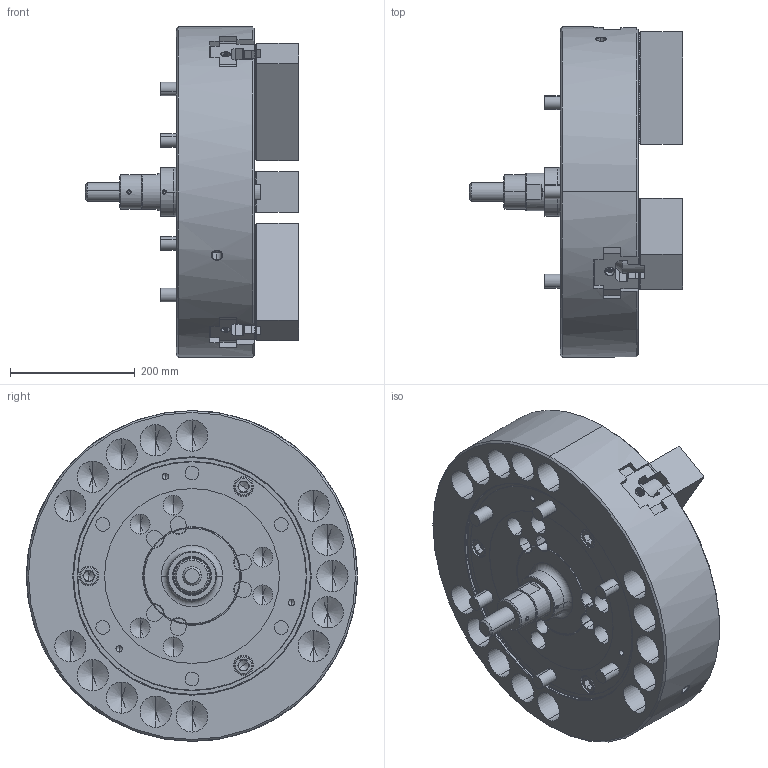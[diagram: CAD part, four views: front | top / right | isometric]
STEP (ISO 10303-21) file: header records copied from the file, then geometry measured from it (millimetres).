
FILE_DESCRIPTION (( 'STEP AP214' ), '1' );
FILE_NAME ('N-21_OC.STEP', '2020-03-08T23:54:18', ( '' ), ( '' ), 'SwSTEP 2.0', 'SolidWorks 2017', '' );
FILE_SCHEMA (( 'AUTOMOTIVE_DESIGN' ));
Length unit declared in the file: millimetre
Products named in the file (21): 61P4185380 T僫僢僩b_g; 俛傾僫僣僉 M20x6020x60; P322625 ソフトジョー_W_‡_[_ﾃﾞﾌｫﾙﾄ_ATI≪UA; P322625 ソフトジョー_W_‡_[; 俛傾僫僣僉 M20x6020x60_B迸路 M20X6020X60; N-21_OC; 61P4185380 T僫僢僩b_g_棉太倌佱UA; Part1^61P2540191 クミタテ_^_e; Part1^61P2540191 僋儈僞僥_^_e_棉太倌I佱UA
Assembly tree (16 placements, depth 2):
  61P4185380 T僫僢僩b_g
  俛傾僫僣僉 M20x6020x60
  俛傾僫僣僉 M20x6020x60
  俛傾僫僣僉 M20x6020x60
  61P4185380 T僫僢僩b_g
Bounding box: 342 x 530 x 530 mm (x, y, z)
Volume: 26509956.1 mm3; surface area: 1487046.5 mm2
Topology: 16 solids, 34 shells, 4307 faces, 12172 edges, 7977 vertices
Faces by surface type: plane 3576, cylinder 419, cone 250, torus 56, sphere 6
Entity records: 107475 total; most frequent: CARTESIAN_POINT 21027, ORIENTED_EDGE 18692, DIRECTION 16646, EDGE_CURVE 9346, VECTOR 7960, LINE 7960, VERTEX_POINT 6141, AXIS2_PLACEMENT_3D 4343
